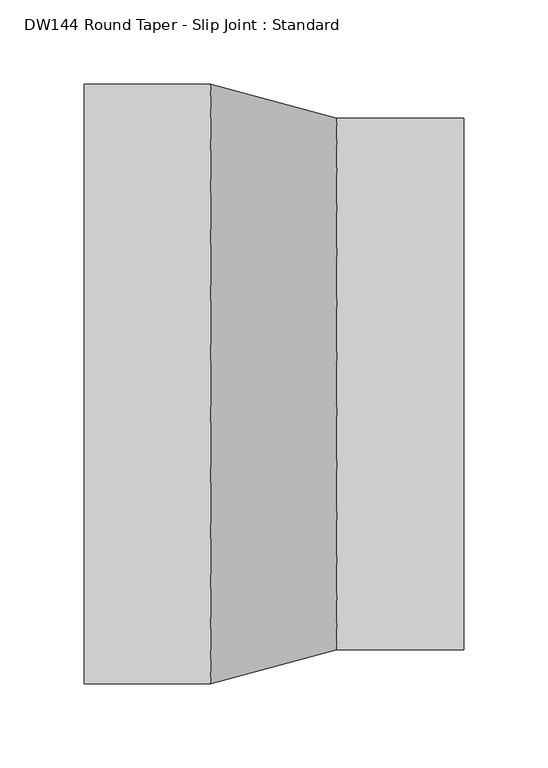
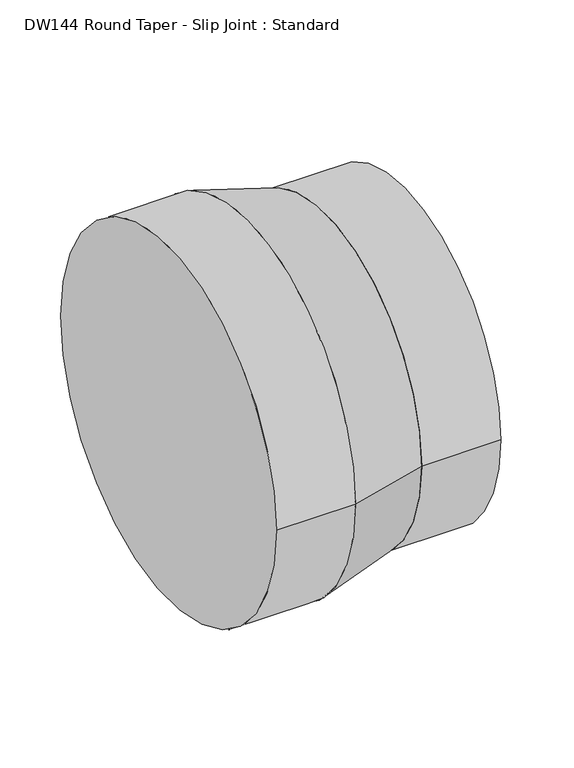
"""IFC4 building model written with IfcOpenShell, lengths in millimetres: duct fitting geometry, DW144 Round Taper - Slip Joint : Standard."""

from ifc_helpers import new_model, si_unit, point, frame, origin, origin_2d, place, context, project, spatial, polyline, circle_curve, trimmed, segment, composite_curve, outline, extrude, source, transform, mapped, element, save
from ifc_brep_helpers import plane_surface, revolved_surface, advanced_brep


def dw144_round_taper_slip_joint_standard_155f4c7e(model_context):
    return source(origin(), model_context, "Body", "SolidModel", [
        extrude(outline(composite_curve([segment(trimmed(circle_curve(origin_2d(), 157.5), [point((-157.5, 0.0))], [point((157.5, 0.0))], False, "CARTESIAN"), True, "CONTINUOUS"), segment(trimmed(circle_curve(origin_2d(), 157.5), [point((157.5, 0.0))], [point((-157.5, 0.0))], False, "CARTESIAN"), True, "CONTINUOUS")], self_intersect=False)), frame((149.6410162, 0.0, 0.0), z_axis=(1.0, 0.0, 0.0), x_axis=(0.0, 1.0, 0.0)), (0.0, 0.0, 1.0), 75.0),
        extrude(outline(composite_curve([segment(trimmed(circle_curve(origin_2d(), 177.5), [point((-177.5, 0.0))], [point((177.5, 0.0))], False, "CARTESIAN"), True, "CONTINUOUS"), segment(trimmed(circle_curve(origin_2d(), 177.5), [point((177.5, 0.0))], [point((-177.5, 0.0))], False, "CARTESIAN"), True, "CONTINUOUS")], self_intersect=False)), frame((0.0, 0.0, 0.0), z_axis=(1.0, 0.0, 0.0), x_axis=(0.0, 1.0, 0.0)), (0.0, 0.0, 1.0), 75.0),
        advanced_brep(
        [(149.6410162, -157.5, 0.0), (149.6410162, 157.5, 0.0), (75.0, -177.5, 0.0), (75.0, 177.5, 0.0)],
        [
            (0, 1, circle_curve(frame((149.6410162, 0.0, 0.0), z_axis=(1.0, 0.0, 0.0), x_axis=(0.0, -1.0, 0.0)), 157.5)),
            (1, 0, circle_curve(frame((149.6410162, 0.0, 0.0), z_axis=(1.0, 0.0, 0.0), x_axis=(0.0, 1.0, 0.0)), 157.5)),
            (2, 3, circle_curve(frame((75.0, 0.0, 0.0), z_axis=(-1.0, 0.0, 0.0), x_axis=(0.0, 1.0, 0.0)), 177.5)),
            (3, 2, circle_curve(frame((75.0, 0.0, 0.0), z_axis=(-1.0, 0.0, 0.0), x_axis=(0.0, -1.0, 0.0)), 177.5)),
            (3, 1),
            (0, 2),
        ],
        [
            plane_surface(frame((149.6410162, 0.0, 0.0), z_axis=(1.0, 0.0, 0.0), x_axis=(0.0, 0.0, -1.0))),
            plane_surface(frame((75.0, 0.0, 0.0), z_axis=(-1.0, 0.0, 0.0), x_axis=(0.0, 0.0, -1.0))),
            revolved_surface(polyline([(149.64101619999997, -157.49999998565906, 0.0), (75.0, -177.5, 0.0)]), (737.4390183, 0.0, 0.0), (-1.0, 0.0, 0.0)),
            revolved_surface(polyline([(149.64101619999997, 157.49999998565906, 0.0), (75.0, 177.5, 0.0)]), (737.4390183, 0.0, 0.0), (-1.0, 0.0, 0.0)),
        ],
        [
            (0, [[1, 2]]),
            (1, [[3, 4]]),
            (2, [[-4, 5, -1, 6]]),
            (3, [[-3, -6, -2, -5]]),
        ],
    ),
    ])


if __name__ == "__main__":
    model = new_model("IFC4")
    model_context = context("Model", 3, world=origin())
    ifc_project = project(units=[si_unit("LENGTHUNIT", "METRE", prefix="MILLI")], contexts=[model_context])
    site = spatial("IfcSite", under=ifc_project)
    building = spatial("IfcBuilding", under=site)
    placement = place(None, origin())
    dw144_round_taper_slip_joint_standard_shape = dw144_round_taper_slip_joint_standard_155f4c7e(model_context)
    element("IfcDuctFitting", 1, ObjectType="DW144 Round Taper - Slip Joint : Standard", at=placement, inside=building, context=model_context, shape_type="MappedRepresentation", body=[
        mapped(dw144_round_taper_slip_joint_standard_shape, transform((0.0, 0.0, 0.0), x_axis=(1.0, 0.0, 0.0), y_axis=(0.0, 1.0, 0.0), z_axis=(0.0, 0.0, 1.0))),
    ])
    save(model, "model.ifc")
